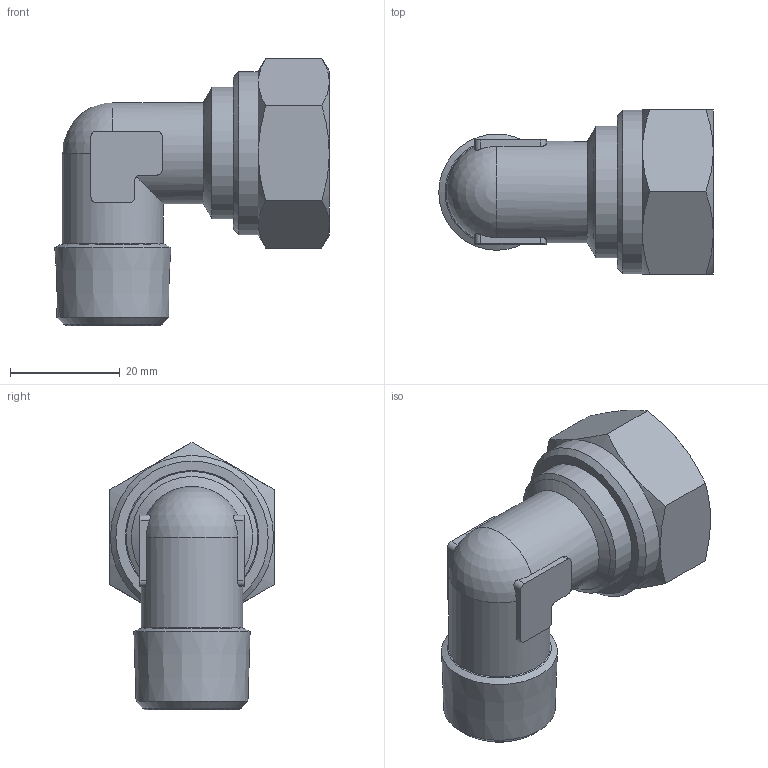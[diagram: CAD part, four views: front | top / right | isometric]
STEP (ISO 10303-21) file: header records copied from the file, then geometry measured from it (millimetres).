
FILE_DESCRIPTION(('Bauteilbeschreibung','HiCAD-Model','HiCAD-STEP-TRANSLATION','Bauteilbeschreibung'),'2;1');
FILE_NAME('B:/ABGLEICH/ZEICHNUNGEN/STEP FÜR INTERNET/STEP/205/92813_205_16_1-2.STP','2012-01-25T07:35:31+00:00',('Konstrukteur'),('Konstrukteur Firma GmbH'),' HiCAD neXt 2008, Step 3.1.1401.2J ','HiCAD neXt 2008','confidential');
FILE_SCHEMA(('AUTOMOTIVE_DESIGN { 1 2 10303 214 0 1 1 1 }'));
Length unit declared in the file: millimetre
Products named in the file (8): A2813_205_16_1_2; A2813; A28130; R 1_2; DIN 13_M24X1_5; A6808; A68080; DIN0130M24X105
Assembly tree (7 placements, depth 3):
  A2813_205_16_1_2
    A2813
    A28130
      R 1_2
      DIN 13_M24X1_5
    A6808
    A68080
      DIN0130M24X105
Bounding box: 50.11 x 30 x 48.82 mm (x, y, z)
Volume: 15437 mm3; surface area: 15498.7 mm2
Topology: 5 solids, 5 shells, 84 faces, 208 edges, 130 vertices
Faces by surface type: cylinder 28, cone 28, plane 27, sphere 1
Full cylindrical faces by diameter (mm): 14.5 x2, 15 x1, 16 x2, 18.5 x2, 22.16 x4, 24 x3, 29.8 x1
Entity records: 5590 total; most frequent: CARTESIAN_POINT 2910, DIRECTION 390, ORIENTED_EDGE 324, AXIS2_PLACEMENT_3D 170, EDGE_CURVE 162, COLOUR_RGB 146, PRESENTATION_STYLE_ASSIGNMENT 146, CURVE_STYLE 141
